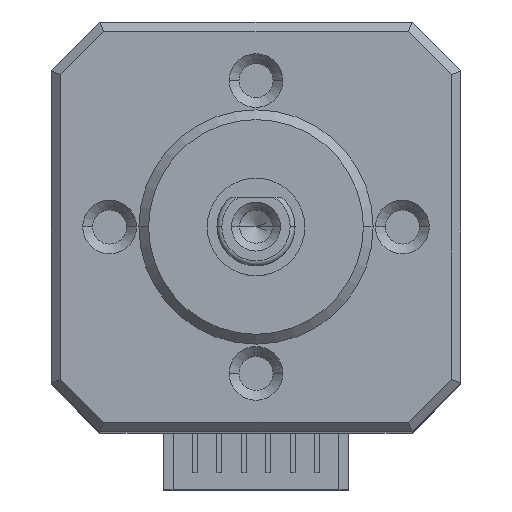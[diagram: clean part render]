
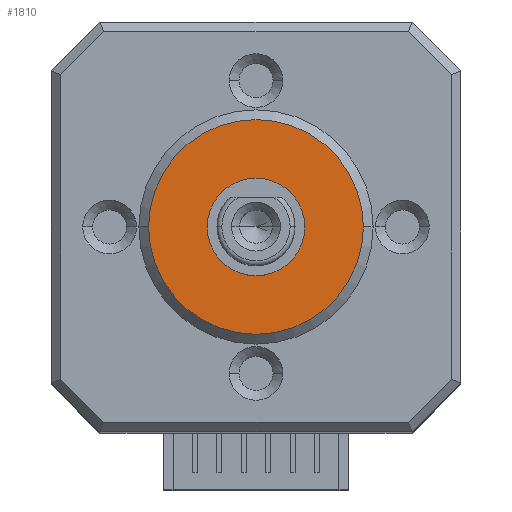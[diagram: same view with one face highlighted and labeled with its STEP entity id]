
A CAD part, top view. The second image highlights one B-rep face of the part: STEP entity #1810.
In plain terms, the highlighted planar face has unit normal (0, 0, 1).
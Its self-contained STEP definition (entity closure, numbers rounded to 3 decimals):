
#49 = VERTEX_POINT ( 'NONE', #1995 ) ;
#95 = CIRCLE ( 'NONE', #739, 11. ) ;
#232 = CARTESIAN_POINT ( 'NONE',  ( 0., 0., 2. ) ) ;
#235 = DIRECTION ( 'NONE',  ( 0., 0., -1. ) ) ;
#411 = EDGE_LOOP ( 'NONE', ( #3860, #3652 ) ) ;
#496 = EDGE_CURVE ( 'NONE', #2887, #3661, #2491, .T. ) ;
#682 = DIRECTION ( 'NONE',  ( 0., 0., -1. ) ) ;
#739 = AXIS2_PLACEMENT_3D ( 'NONE', #3387, #682, #2194 ) ;
#762 = AXIS2_PLACEMENT_3D ( 'NONE', #2625, #235, #2664 ) ;
#810 = PLANE ( 'NONE',  #2066 ) ;
#917 = CARTESIAN_POINT ( 'NONE',  ( 5., 0., 2. ) ) ;
#1015 = EDGE_CURVE ( 'NONE', #1635, #49, #3876, .T. ) ;
#1095 = DIRECTION ( 'NONE',  ( -1., 0., 0. ) ) ;
#1272 = CARTESIAN_POINT ( 'NONE',  ( 0., 0., 2. ) ) ;
#1516 = AXIS2_PLACEMENT_3D ( 'NONE', #1272, #3094, #1585 ) ;
#1585 = DIRECTION ( 'NONE',  ( -1., 0., 0. ) ) ;
#1635 = VERTEX_POINT ( 'NONE', #2640 ) ;
#1709 = DIRECTION ( 'NONE',  ( 0., 0., 1. ) ) ;
#1808 = FACE_OUTER_BOUND ( 'NONE', #411, .T. ) ;
#1810 = ADVANCED_FACE ( 'NONE', ( #1808, #2810 ), #810, .F. ) ;
#1872 = EDGE_LOOP ( 'NONE', ( #2061, #3009 ) ) ;
#1995 = CARTESIAN_POINT ( 'NONE',  ( -11., 0., 2. ) ) ;
#2061 = ORIENTED_EDGE ( 'NONE', *, *, #3683, .F. ) ;
#2066 = AXIS2_PLACEMENT_3D ( 'NONE', #232, #2356, #1095 ) ;
#2194 = DIRECTION ( 'NONE',  ( -1., 0., 0. ) ) ;
#2356 = DIRECTION ( 'NONE',  ( 0., 0., -1. ) ) ;
#2456 = EDGE_CURVE ( 'NONE', #49, #1635, #95, .T. ) ;
#2491 = CIRCLE ( 'NONE', #1516, 5. ) ;
#2625 = CARTESIAN_POINT ( 'NONE',  ( 0., 0., 2. ) ) ;
#2640 = CARTESIAN_POINT ( 'NONE',  ( 11., 0., 2. ) ) ;
#2664 = DIRECTION ( 'NONE',  ( -1., 0., 0. ) ) ;
#2810 = FACE_BOUND ( 'NONE', #1872, .T. ) ;
#2835 = CIRCLE ( 'NONE', #3264, 5. ) ;
#2887 = VERTEX_POINT ( 'NONE', #917 ) ;
#3009 = ORIENTED_EDGE ( 'NONE', *, *, #496, .F. ) ;
#3094 = DIRECTION ( 'NONE',  ( 0., 0., 1. ) ) ;
#3226 = CARTESIAN_POINT ( 'NONE',  ( 0., 0., 2. ) ) ;
#3239 = DIRECTION ( 'NONE',  ( -1., 0., 0. ) ) ;
#3264 = AXIS2_PLACEMENT_3D ( 'NONE', #3226, #1709, #3239 ) ;
#3387 = CARTESIAN_POINT ( 'NONE',  ( 0., 0., 2. ) ) ;
#3652 = ORIENTED_EDGE ( 'NONE', *, *, #1015, .F. ) ;
#3661 = VERTEX_POINT ( 'NONE', #3800 ) ;
#3683 = EDGE_CURVE ( 'NONE', #3661, #2887, #2835, .T. ) ;
#3800 = CARTESIAN_POINT ( 'NONE',  ( -5., 0., 2. ) ) ;
#3860 = ORIENTED_EDGE ( 'NONE', *, *, #2456, .F. ) ;
#3876 = CIRCLE ( 'NONE', #762, 11. ) ;
